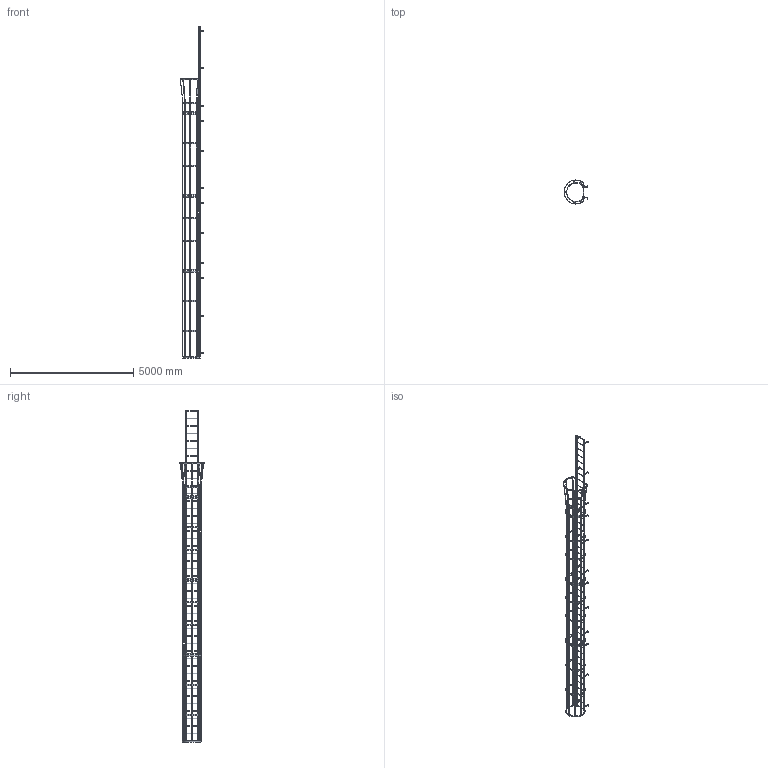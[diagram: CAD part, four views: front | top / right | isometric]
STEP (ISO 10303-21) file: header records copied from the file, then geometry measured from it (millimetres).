
FILE_DESCRIPTION(/* description */ (''),/* implementation_level */ '2;1');
FILE_NAME(/* name */ 'P:\MIKEL & KAREN\3570376 F45SC SIMPLIFIED PART.stp',/* time_stamp */ '2018-07-02T16:12:59-04:00',/* author */ ('stephanie'),/* organization */ (''),/* preprocessor_version */ 'ST-DEVELOPER v16.1',/* originating_system */ 'Autodesk Inventor 2016',/* authorisation */ '');
FILE_SCHEMA (('AUTOMOTIVE_DESIGN { 1 0 10303 214 3 1 1 }'));
Length unit declared in the file: centimetre
Products named in the file (1): 3570376 F45SC SIMPLIFIED PART
Bounding box: 974.15 x 977.88 x 13487.4 mm (x, y, z)
Volume: 47797764.4 mm3; surface area: 17103664 mm2
Topology: 66 solids, 68 shells, 1470 faces, 4374 edges, 2814 vertices
Faces by surface type: plane 968, cylinder 470, cone 32
Full cylindrical faces by diameter (mm): 12.7 x4, 14.287 x30, 16.193 x2, 19.05 x47, 22.225 x90
Entity records: 49518 total; most frequent: ORIENTED_EDGE 8406, CARTESIAN_POINT 8338, DIRECTION 8129, EDGE_CURVE 4063, LINE 2819, VECTOR 2819, VERTEX_POINT 2684, AXIS2_PLACEMENT_3D 2655
